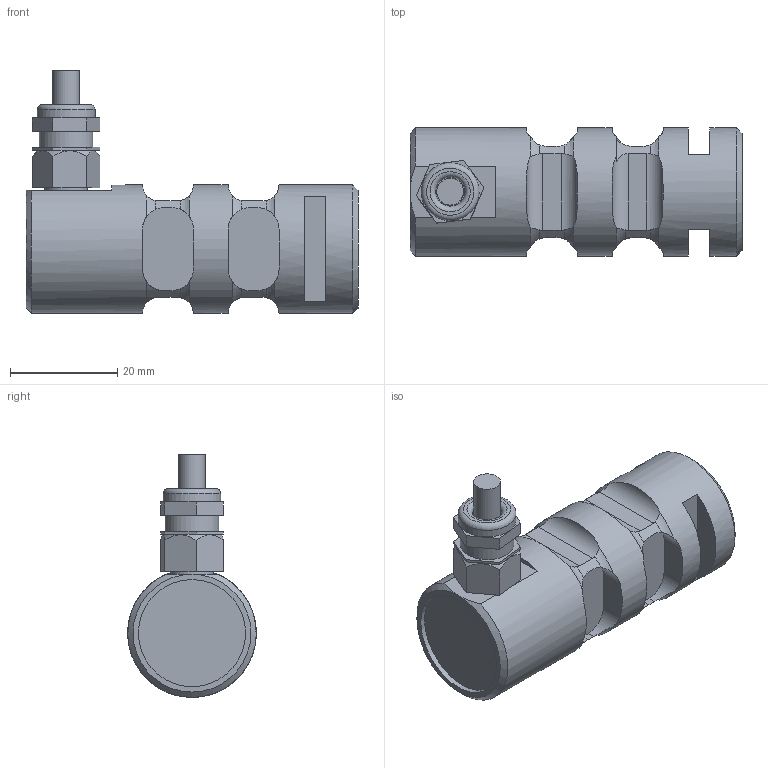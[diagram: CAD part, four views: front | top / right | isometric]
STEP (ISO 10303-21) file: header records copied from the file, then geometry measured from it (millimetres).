
FILE_DESCRIPTION(/* description */ ('Alibre Inc.'),/* implementation_level */ '2;1');
FILE_NAME(/* name */ 'export0',/* time_stamp */ '2011-06-25T11:38:39+02:00',/* author */ (''),/* organization */ (''),/* preprocessor_version */ 'ST-DEVELOPER v10',/* originating_system */ 'Alibre',/* authorisation */ '');
FILE_SCHEMA (('CONFIG_CONTROL_DESIGN'));
Length unit declared in the file: centimetre
Products named in the file (4): ID_1
Bounding box: 62 x 24 x 45.34 mm (x, y, z)
Volume: 24986.9 mm3; surface area: 8197.1 mm2
Topology: 3 solids, 3 shells, 130 faces, 340 edges, 226 vertices
Faces by surface type: plane 66, cylinder 43, torus 16, cone 5
Full cylindrical faces by diameter (mm): 5 x2, 5.5 x1, 6.917 x1, 8 x1, 10 x1, 10.8 x1, 20 x1, 24 x3
Entity records: 6677 total; most frequent: CARTESIAN_POINT 3451, ORIENTED_EDGE 642, DIRECTION 451, EDGE_CURVE 321, VERTEX_POINT 224, AXIS2_PLACEMENT_3D 196, EDGE_LOOP 159, FACE_BOUND 159
